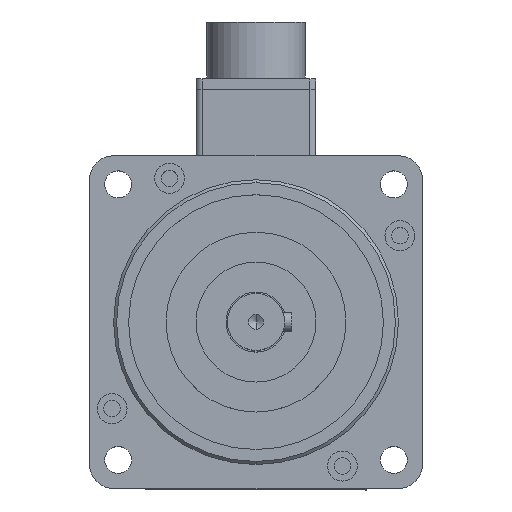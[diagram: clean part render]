
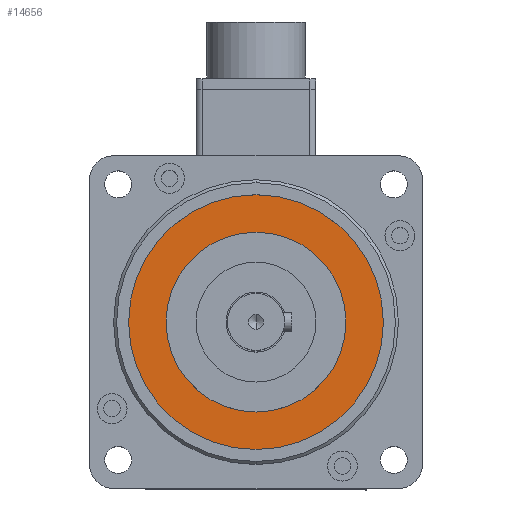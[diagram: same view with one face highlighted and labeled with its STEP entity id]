
A CAD part, top view. The second image highlights one B-rep face of the part: STEP entity #14656.
In plain terms, the highlighted planar face has unit normal (0, 0, 1).
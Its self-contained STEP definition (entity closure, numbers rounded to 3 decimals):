
#754 = CARTESIAN_POINT ( 'NONE',  ( -79.503, 42.839, 254.2 ) ) ;
#1996 = ORIENTED_EDGE ( 'NONE', *, *, #38931, .T. ) ;
#2730 = CIRCLE ( 'NONE', #30137, 42.5 ) ;
#4718 = CARTESIAN_POINT ( 'NONE',  ( -109.503, 42.839, 254.2 ) ) ;
#4947 = CIRCLE ( 'NONE', #19273, 30. ) ;
#5256 = DIRECTION ( 'NONE',  ( 1., 0., 0. ) ) ;
#5861 = AXIS2_PLACEMENT_3D ( 'NONE', #9977, #19141, #28471 ) ;
#6070 = VERTEX_POINT ( 'NONE', #12736 ) ;
#8065 = DIRECTION ( 'NONE',  ( 0., 0., -1. ) ) ;
#8508 = AXIS2_PLACEMENT_3D ( 'NONE', #754, #13124, #11808 ) ;
#9977 = CARTESIAN_POINT ( 'NONE',  ( -79.503, 42.839, 254.2 ) ) ;
#10489 = DIRECTION ( 'NONE',  ( 0., 0., 1. ) ) ;
#11808 = DIRECTION ( 'NONE',  ( 1., 0., 0. ) ) ;
#12736 = CARTESIAN_POINT ( 'NONE',  ( -122.003, 42.839, 254.2 ) ) ;
#12885 = EDGE_CURVE ( 'NONE', #23102, #28912, #4947, .T. ) ;
#13124 = DIRECTION ( 'NONE',  ( 0., 0., 1. ) ) ;
#14087 = CARTESIAN_POINT ( 'NONE',  ( -79.503, 42.839, 254.2 ) ) ;
#14656 = ADVANCED_FACE ( 'NONE', ( #24522, #30653 ), #16603, .T. ) ;
#16030 = EDGE_LOOP ( 'NONE', ( #26064, #30463 ) ) ;
#16289 = VERTEX_POINT ( 'NONE', #35975 ) ;
#16603 = PLANE ( 'NONE',  #36236 ) ;
#19141 = DIRECTION ( 'NONE',  ( 0., 0., -1. ) ) ;
#19273 = AXIS2_PLACEMENT_3D ( 'NONE', #14087, #8065, #5256 ) ;
#22718 = ORIENTED_EDGE ( 'NONE', *, *, #12885, .T. ) ;
#23076 = CARTESIAN_POINT ( 'NONE',  ( -79.503, 42.839, 254.2 ) ) ;
#23102 = VERTEX_POINT ( 'NONE', #4718 ) ;
#23477 = DIRECTION ( 'NONE',  ( 1., 0., 0. ) ) ;
#23560 = EDGE_CURVE ( 'NONE', #16289, #6070, #29419, .T. ) ;
#23976 = CARTESIAN_POINT ( 'NONE',  ( -49.503, 42.839, 254.2 ) ) ;
#24522 = FACE_OUTER_BOUND ( 'NONE', #16030, .T. ) ;
#25258 = EDGE_CURVE ( 'NONE', #6070, #16289, #2730, .T. ) ;
#25320 = DIRECTION ( 'NONE',  ( 1., 0., 0. ) ) ;
#26064 = ORIENTED_EDGE ( 'NONE', *, *, #23560, .T. ) ;
#28228 = CARTESIAN_POINT ( 'NONE',  ( -79.503, 42.839, 254.2 ) ) ;
#28471 = DIRECTION ( 'NONE',  ( 1., 0., 0. ) ) ;
#28912 = VERTEX_POINT ( 'NONE', #23976 ) ;
#29419 = CIRCLE ( 'NONE', #8508, 42.5 ) ;
#30137 = AXIS2_PLACEMENT_3D ( 'NONE', #23076, #35724, #23477 ) ;
#30463 = ORIENTED_EDGE ( 'NONE', *, *, #25258, .T. ) ;
#30653 = FACE_BOUND ( 'NONE', #30954, .T. ) ;
#30954 = EDGE_LOOP ( 'NONE', ( #1996, #22718 ) ) ;
#32323 = CIRCLE ( 'NONE', #5861, 30. ) ;
#35724 = DIRECTION ( 'NONE',  ( 0., 0., 1. ) ) ;
#35975 = CARTESIAN_POINT ( 'NONE',  ( -37.003, 42.839, 254.2 ) ) ;
#36236 = AXIS2_PLACEMENT_3D ( 'NONE', #28228, #10489, #25320 ) ;
#38931 = EDGE_CURVE ( 'NONE', #28912, #23102, #32323, .T. ) ;
